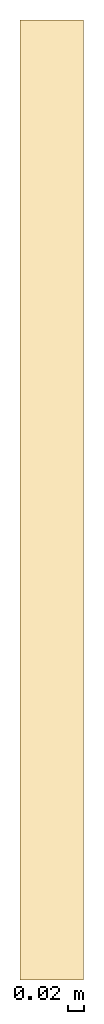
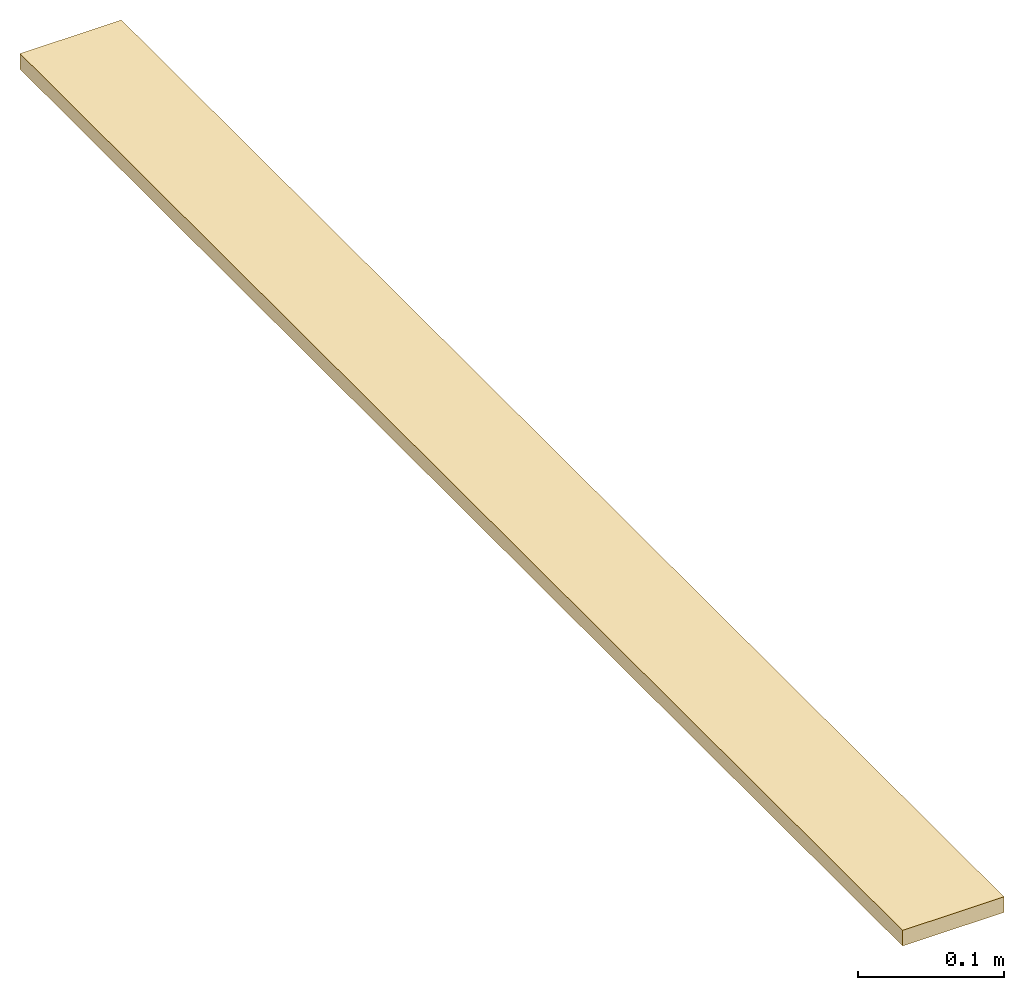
# One storey: 1 covering.
"""IFC4 building model written with IfcOpenShell, lengths in centimetres."""

from ifc_helpers import new_model, entity, si_unit, converted_unit, direction, frame, origin, place, context, subcontext, project, spatial, indexed_curve, outline, extrude, material, constituent, constituent_set, type_object, element, save


model = new_model("IFC4")

# Units and contexts
model_context = context("Model", 3, precision=0.001, world=origin(), true_north=direction((0.0, 1.0)))
body_context = subcontext(model_context, "Body", "Model", "MODEL_VIEW")
ifc_project = project(units=[si_unit("LENGTHUNIT", "METRE", prefix="CENTI"), si_unit("AREAUNIT", "SQUARE_METRE"), si_unit("VOLUMEUNIT", "CUBIC_METRE"), converted_unit("PLANEANGLEUNIT", "DEGREE", entity("IfcPlaneAngleMeasure", 0.017453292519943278), si_unit("PLANEANGLEUNIT", "RADIAN"), dimensions=[0, 0, 0, 0, 0, 0, 0])], contexts=[model_context])

# Site, building, storey
site_placement = place(None, origin())
site = spatial("IfcSite", under=ifc_project, at=site_placement, Name="Default", CompositionType="ELEMENT")
building_placement = place(site_placement, origin())
building = spatial("IfcBuilding", under=site, at=building_placement, CompositionType="ELEMENT")
storey_placement = place(building_placement, frame((0.0, 0.0, -312.0)))
storey = spatial("IfcBuildingStorey", under=building, at=storey_placement, Name="B1__ABOVE Slab", CompositionType="ELEMENT", Elevation=-312.0000000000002)

# Covering
ifc_material_1 = material(Name="_STRUCTURE__Wood Solid")
ifc_constituent_1 = constituent(ifc_material_1, Name="_STRUCTURE__Wood Solid", fraction=0.7692307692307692)
ifc_material_2 = material(Name="_FCD FINISH__Mineral Render__Combed, H L/O__Capatect Kreativeffekt \"Filigrano\"__White", Category="Concrete")
ifc_constituent_2 = constituent(ifc_material_2, Name="_FCD FINISH__Mineral Render__Combed, H L/O__Capatect Kreativeffekt \"Filigrano\"__White", Category="Concrete", fraction=0.23076923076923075)
ifc_constituent_set = constituent_set(constituents=[ifc_constituent_1, ifc_constituent_2], Name="Compound Ceiling:clg__EXT_Cladding")
covering_type = type_object("IfcCoveringType", Name="Ceilings : Compound Ceiling : clg__EXT_Cladding", PredefinedType="CEILING")
covering_placement = place(storey_placement, frame((1397.849456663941, 1766.4369860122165, 308.69999999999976)))
element("IfcCovering", 1, at=covering_placement, inside=storey, type_object=covering_type, material=ifc_constituent_set, Name="Ceilings : Compound Ceiling : clg__EXT_Cladding", PredefinedType="CEILING", context=body_context, shape_type="SweptSolid", body=[
    extrude(outline(indexed_curve([(-3.999999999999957, -60.30303023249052), (3.99999999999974, -60.30303023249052), (3.999999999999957, 60.30303023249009), (-3.999999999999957, 60.30303023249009), (-3.999999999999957, -60.30303023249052)], self_intersect=False)), frame((4.0, 60.30303023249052, 0.29999999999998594), z_axis=(0.0, 0.0, 1.0), x_axis=(-1.0, 0.0, 0.0)), (0.0, 0.0, 1.0), 0.9999999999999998),
    extrude(outline(indexed_curve([(-60.30303023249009, -3.999999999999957), (60.30303023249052, -3.999999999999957), (60.30303023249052, 3.99999999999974), (-60.30303023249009, 3.99999999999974), (-60.30303023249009, -3.999999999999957)], self_intersect=False)), frame((4.0, 60.30303023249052, 0.0), z_axis=(0.0, 0.0, 1.0), x_axis=(0.0, 1.0, 0.0)), (0.0, 0.0, 1.0), 0.3000000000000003),
])

save(model, "model.ifc")
